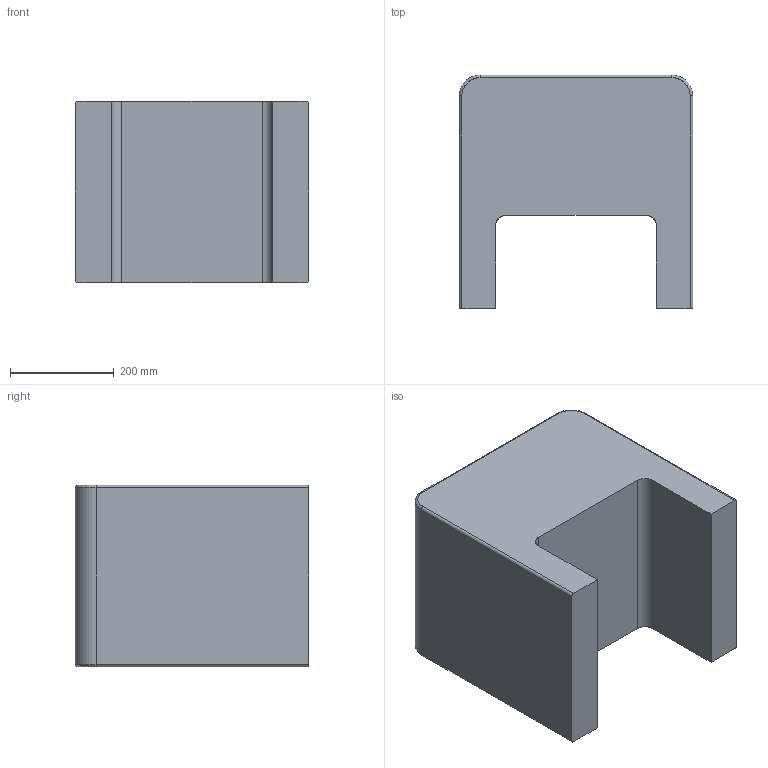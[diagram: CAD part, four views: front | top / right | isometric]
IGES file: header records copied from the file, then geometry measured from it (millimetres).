
Start section: SolidWorks IGES file using NURBS representation for surfaces
Global section: file name: G:\VICCARBE\PRODUCTOS\FAMILIAS 2D - 3D (PRODUCTOS VICCARBE)\3D (IGES + STL + DWG)\03-DAVOS\01-IGES\VICCARBE_Davos_Bench\VICCARBE_Davos_Bench45.IGS; native system: SolidWorks 2009; preprocessor: SolidWorks 2009; author: RUBEN; date: 110830.130732; units: millimetre
Bounding box: 450 x 450 x 350 mm (x, y, z)
Surface area: 1024663.9 mm2 (no closed solid volume)
Topology: 0 solids, 0 shells, 24 faces, 200 edges, 200 vertices
Faces by surface type: bspline 24
